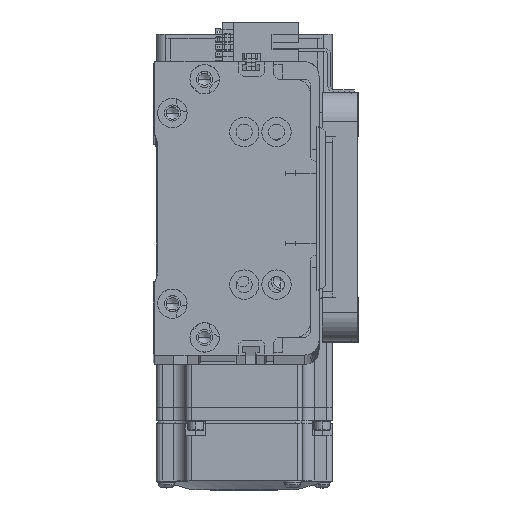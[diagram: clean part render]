
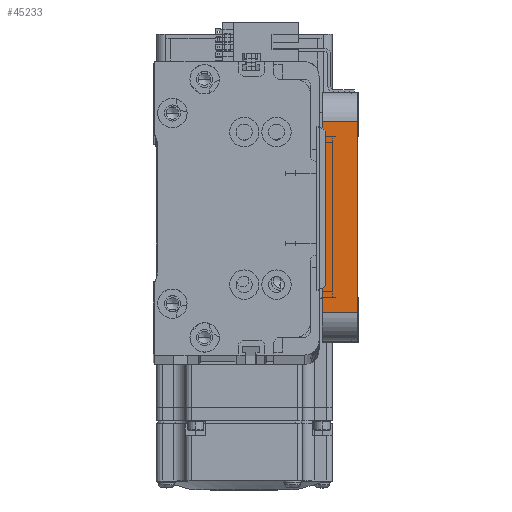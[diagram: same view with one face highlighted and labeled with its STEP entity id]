
A CAD part, top view. The second image highlights one B-rep face of the part: STEP entity #45233.
In plain terms, the highlighted planar face has unit normal (0, 0, 1) as drawn and (-1, 0, 0) by its records, which use the part's own axes.
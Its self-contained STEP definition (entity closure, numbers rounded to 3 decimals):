
#362 = ORIENTED_EDGE ( 'NONE', *, *, #10949, .F. ) ;
#809 = EDGE_CURVE ( 'NONE', #17912, #23914, #26839, .T. ) ;
#2485 = EDGE_LOOP ( 'NONE', ( #59910, #26020, #362, #28770 ) ) ;
#10949 = EDGE_CURVE ( 'NONE', #17912, #24112, #16966, .T. ) ;
#16696 = PLANE ( 'NONE',  #58137 ) ;
#16966 = LINE ( 'NONE', #68448, #30869 ) ;
#17558 = LINE ( 'NONE', #22917, #49059 ) ;
#17912 = VERTEX_POINT ( 'NONE', #72565 ) ;
#18890 = DIRECTION ( 'NONE',  ( 0., -1., 0. ) ) ;
#22917 = CARTESIAN_POINT ( 'NONE',  ( -55., -32.5, 12. ) ) ;
#23914 = VERTEX_POINT ( 'NONE', #65207 ) ;
#24112 = VERTEX_POINT ( 'NONE', #61849 ) ;
#26020 = ORIENTED_EDGE ( 'NONE', *, *, #63544, .T. ) ;
#26839 = LINE ( 'NONE', #61587, #58313 ) ;
#28770 = ORIENTED_EDGE ( 'NONE', *, *, #809, .T. ) ;
#30869 = VECTOR ( 'NONE', #33143, 1000. ) ;
#33143 = DIRECTION ( 'NONE',  ( 0., -1., 0. ) ) ;
#34575 = DIRECTION ( 'NONE',  ( 0., 0., -1. ) ) ;
#41305 = CARTESIAN_POINT ( 'NONE',  ( -55., -32.5, 0. ) ) ;
#41699 = FACE_OUTER_BOUND ( 'NONE', #2485, .T. ) ;
#45233 = ADVANCED_FACE ( 'NONE', ( #41699 ), #16696, .F. ) ;
#46212 = CARTESIAN_POINT ( 'NONE',  ( -55., -42.5, 12. ) ) ;
#49059 = VECTOR ( 'NONE', #64225, 1000. ) ;
#49512 = DIRECTION ( 'NONE',  ( 0., 0., -1. ) ) ;
#51583 = VERTEX_POINT ( 'NONE', #41305 ) ;
#54358 = CARTESIAN_POINT ( 'NONE',  ( -55., -42.5, 0. ) ) ;
#58137 = AXIS2_PLACEMENT_3D ( 'NONE', #46212, #69899, #34575 ) ;
#58313 = VECTOR ( 'NONE', #49512, 1000. ) ;
#58665 = VECTOR ( 'NONE', #18890, 1000. ) ;
#59747 = EDGE_CURVE ( 'NONE', #23914, #51583, #60490, .T. ) ;
#59910 = ORIENTED_EDGE ( 'NONE', *, *, #59747, .T. ) ;
#60490 = LINE ( 'NONE', #54358, #58665 ) ;
#61587 = CARTESIAN_POINT ( 'NONE',  ( -55., 32.5, 12. ) ) ;
#61849 = CARTESIAN_POINT ( 'NONE',  ( -55., -32.5, 12. ) ) ;
#63544 = EDGE_CURVE ( 'NONE', #51583, #24112, #17558, .T. ) ;
#64225 = DIRECTION ( 'NONE',  ( 0., 0., 1. ) ) ;
#65207 = CARTESIAN_POINT ( 'NONE',  ( -55., 32.5, 0. ) ) ;
#68448 = CARTESIAN_POINT ( 'NONE',  ( -55., -42.5, 12. ) ) ;
#69899 = DIRECTION ( 'NONE',  ( 1., 0., 0. ) ) ;
#72565 = CARTESIAN_POINT ( 'NONE',  ( -55., 32.5, 12. ) ) ;
